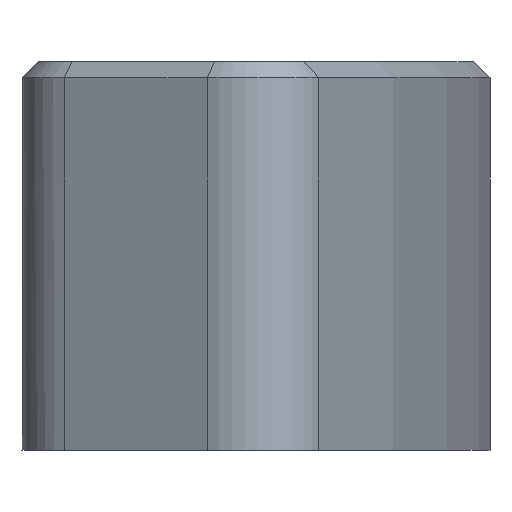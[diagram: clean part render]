
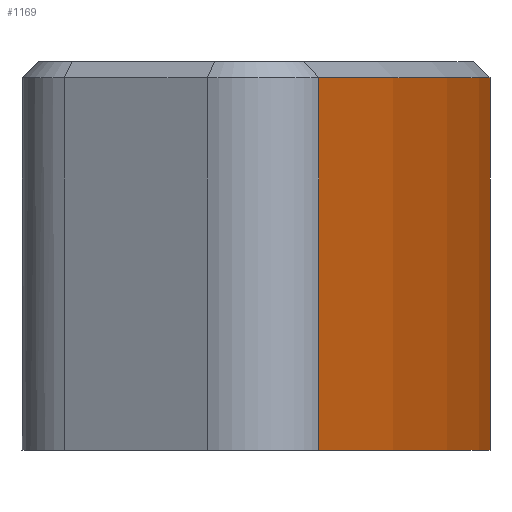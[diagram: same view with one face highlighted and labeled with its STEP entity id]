
A CAD part, front view. The second image highlights one B-rep face of the part: STEP entity #1169.
In plain terms, the highlighted cylindrical face has radius 54 mm (diameter 108 mm), a partial arc.
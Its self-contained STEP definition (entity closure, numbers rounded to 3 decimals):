
#58=CARTESIAN_POINT('',(126.,-4.,-245.5));
#59=DIRECTION('',(0.,0.,1.));
#60=DIRECTION('',(0.902,-0.432,0.));
#61=AXIS2_PLACEMENT_3D('',#58,#59,#60);
#63=CARTESIAN_POINT('',(126.,-4.,-245.5));
#64=DIRECTION('',(0.,0.,1.));
#65=DIRECTION('',(1.,0.,0.));
#66=AXIS2_PLACEMENT_3D('',#63,#64,#65);
#389=DIRECTION('',(0.,0.,1.));
#390=VECTOR('',#389,11.5);
#391=CARTESIAN_POINT('',(174.709,19.311,-245.5));
#392=LINE('',#391,#390);
#401=CARTESIAN_POINT('',(126.,-4.,-234.));
#402=DIRECTION('',(0.,0.,1.));
#403=DIRECTION('',(0.902,-0.432,0.));
#404=AXIS2_PLACEMENT_3D('',#401,#402,#403);
#406=DIRECTION('',(0.,0.,1.));
#407=VECTOR('',#406,11.5);
#408=CARTESIAN_POINT('',(174.709,-27.311,-245.5));
#409=LINE('',#408,#407);
#549=CARTESIAN_POINT('',(174.709,-27.311,-245.5));
#550=VERTEX_POINT('',#549);
#551=CARTESIAN_POINT('',(180.,-4.,-245.5));
#552=VERTEX_POINT('',#551);
#553=CARTESIAN_POINT('',(174.709,19.311,-245.5));
#554=VERTEX_POINT('',#553);
#655=CARTESIAN_POINT('',(174.709,-27.311,-234.));
#656=VERTEX_POINT('',#655);
#659=CARTESIAN_POINT('',(174.709,19.311,-234.));
#660=VERTEX_POINT('',#659);
#1156=CARTESIAN_POINT('',(126.,-4.,-245.502));
#1157=DIRECTION('',(0.,0.,1.));
#1158=DIRECTION('',(1.,0.,0.));
#1159=AXIS2_PLACEMENT_3D('',#1156,#1157,#1158);
#1160=CYLINDRICAL_SURFACE('',#1159,54.);
#1161=ORIENTED_EDGE('',*,*,#1149,.T.);
#1162=ORIENTED_EDGE('',*,*,#1124,.F.);
#1163=ORIENTED_EDGE('',*,*,#700,.F.);
#1164=ORIENTED_EDGE('',*,*,#698,.F.);
#1166=ORIENTED_EDGE('',*,*,#1165,.T.);
#1167=EDGE_LOOP('',(#1161,#1162,#1163,#1164,#1166));
#1168=FACE_OUTER_BOUND('',#1167,.F.);
#1169=ADVANCED_FACE('',(#1168),#1160,.T.);
#62=CIRCLE('',#61,54.);
#67=CIRCLE('',#66,54.);
#405=CIRCLE('',#404,54.);
#698=EDGE_CURVE('',#550,#552,#62,.T.);
#700=EDGE_CURVE('',#552,#554,#67,.T.);
#1124=EDGE_CURVE('',#554,#660,#392,.T.);
#1149=EDGE_CURVE('',#656,#660,#405,.T.);
#1165=EDGE_CURVE('',#550,#656,#409,.T.);
